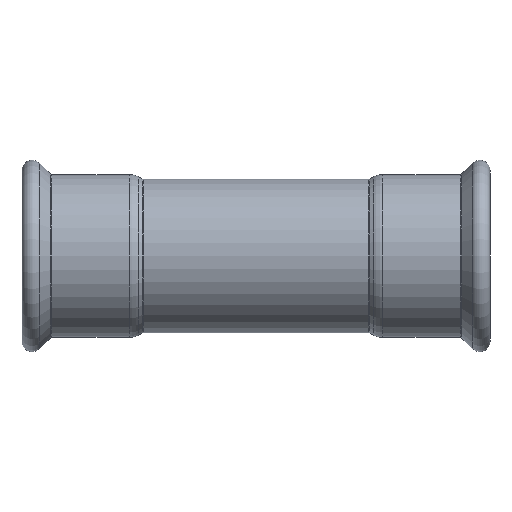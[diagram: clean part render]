
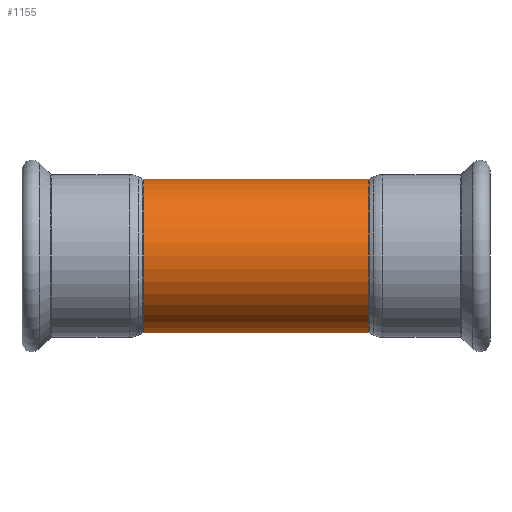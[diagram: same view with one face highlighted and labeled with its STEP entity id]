
A CAD part, front view. The second image highlights one B-rep face of the part: STEP entity #1155.
In plain terms, the highlighted cylindrical face has radius 37.55 mm (diameter 75.1 mm), a partial arc.
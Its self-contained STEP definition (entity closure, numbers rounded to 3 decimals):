
#199 = AXIS2_PLACEMENT_3D ( 'NONE', #1881, #662, #3072 ) ;
#281 = DIRECTION ( 'NONE',  ( -1., 0., 0. ) ) ;
#317 = VERTEX_POINT ( 'NONE', #817 ) ;
#386 = VERTEX_POINT ( 'NONE', #3931 ) ;
#414 = CARTESIAN_POINT ( 'NONE',  ( 55.056, 0., -37.55 ) ) ;
#636 = CARTESIAN_POINT ( 'NONE',  ( 27.146, 0., 0. ) ) ;
#662 = DIRECTION ( 'NONE',  ( -1., 0., 0. ) ) ;
#715 = LINE ( 'NONE', #989, #1286 ) ;
#817 = CARTESIAN_POINT ( 'NONE',  ( 55.056, 0., 37.55 ) ) ;
#880 = DIRECTION ( 'NONE',  ( 0., 0., 1. ) ) ;
#943 = DIRECTION ( 'NONE',  ( -1., 0., 0. ) ) ;
#951 = DIRECTION ( 'NONE',  ( 0., 0., 1. ) ) ;
#963 = ORIENTED_EDGE ( 'NONE', *, *, #2985, .T. ) ;
#984 = LINE ( 'NONE', #2297, #1737 ) ;
#989 = CARTESIAN_POINT ( 'NONE',  ( 27.146, 0., 37.55 ) ) ;
#1087 = AXIS2_PLACEMENT_3D ( 'NONE', #636, #281, #951 ) ;
#1155 = ADVANCED_FACE ( 'NONE', ( #2683 ), #3713, .T. ) ;
#1286 = VECTOR ( 'NONE', #943, 1000. ) ;
#1393 = CARTESIAN_POINT ( 'NONE',  ( -55.056, 0., -37.55 ) ) ;
#1495 = EDGE_CURVE ( 'NONE', #1922, #386, #4003, .T. ) ;
#1532 = DIRECTION ( 'NONE',  ( -1., 0., 0. ) ) ;
#1737 = VECTOR ( 'NONE', #2642, 1000. ) ;
#1881 = CARTESIAN_POINT ( 'NONE',  ( 55.056, 0., 0. ) ) ;
#1922 = VERTEX_POINT ( 'NONE', #1393 ) ;
#1982 = VERTEX_POINT ( 'NONE', #414 ) ;
#2297 = CARTESIAN_POINT ( 'NONE',  ( 27.146, 0., -37.55 ) ) ;
#2625 = AXIS2_PLACEMENT_3D ( 'NONE', #3535, #1532, #880 ) ;
#2642 = DIRECTION ( 'NONE',  ( -1., 0., 0. ) ) ;
#2683 = FACE_OUTER_BOUND ( 'NONE', #4217, .T. ) ;
#2729 = ORIENTED_EDGE ( 'NONE', *, *, #4285, .F. ) ;
#2828 = ORIENTED_EDGE ( 'NONE', *, *, #3758, .T. ) ;
#2985 = EDGE_CURVE ( 'NONE', #1982, #317, #3837, .T. ) ;
#3072 = DIRECTION ( 'NONE',  ( 0., 0., 1. ) ) ;
#3508 = ORIENTED_EDGE ( 'NONE', *, *, #1495, .F. ) ;
#3535 = CARTESIAN_POINT ( 'NONE',  ( -55.056, 0., 0. ) ) ;
#3713 = CYLINDRICAL_SURFACE ( 'NONE', #1087, 37.55 ) ;
#3758 = EDGE_CURVE ( 'NONE', #317, #386, #715, .T. ) ;
#3837 = CIRCLE ( 'NONE', #199, 37.55 ) ;
#3931 = CARTESIAN_POINT ( 'NONE',  ( -55.056, 0., 37.55 ) ) ;
#4003 = CIRCLE ( 'NONE', #2625, 37.55 ) ;
#4217 = EDGE_LOOP ( 'NONE', ( #2729, #963, #2828, #3508 ) ) ;
#4285 = EDGE_CURVE ( 'NONE', #1982, #1922, #984, .T. ) ;
